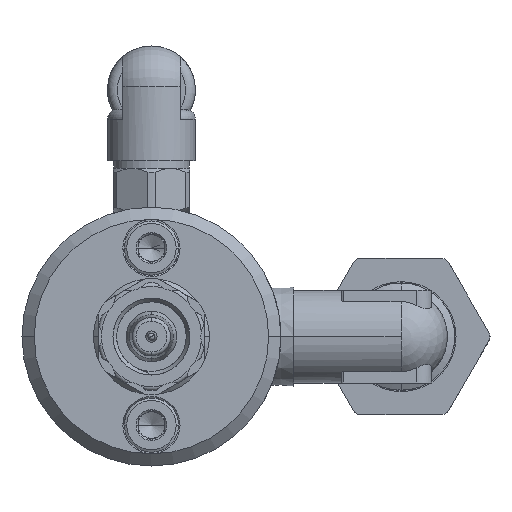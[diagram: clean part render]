
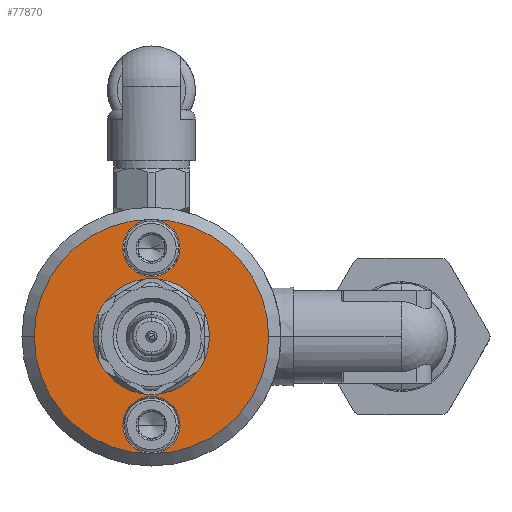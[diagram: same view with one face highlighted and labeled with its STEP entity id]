
A CAD part, front view. The second image highlights one B-rep face of the part: STEP entity #77870.
In plain terms, the highlighted planar face has unit normal (0, -1, 0).
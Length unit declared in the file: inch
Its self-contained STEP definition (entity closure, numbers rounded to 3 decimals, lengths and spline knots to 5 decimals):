
#302 = AXIS2_PLACEMENT_3D ( 'NONE', #28994, #22713, #35038 ) ;
#2168 = DIRECTION ( 'NONE',  ( 1., 0., 0. ) ) ;
#4501 = CARTESIAN_POINT ( 'NONE',  ( 0., -0.875, 0.2375 ) ) ;
#7671 = VERTEX_POINT ( 'NONE', #52688 ) ;
#9835 = DIRECTION ( 'NONE',  ( 1., 0., 0. ) ) ;
#10021 = VERTEX_POINT ( 'NONE', #30435 ) ;
#12459 = EDGE_LOOP ( 'NONE', ( #58090, #65483 ) ) ;
#13237 = ORIENTED_EDGE ( 'NONE', *, *, #17180, .F. ) ;
#14025 = CIRCLE ( 'NONE', #25470, 0.2375 ) ;
#14329 = CARTESIAN_POINT ( 'NONE',  ( 0., -0.875, 0. ) ) ;
#14725 = ORIENTED_EDGE ( 'NONE', *, *, #23376, .T. ) ;
#14953 = FACE_OUTER_BOUND ( 'NONE', #28342, .T. ) ;
#15014 = VERTEX_POINT ( 'NONE', #32642 ) ;
#15921 = AXIS2_PLACEMENT_3D ( 'NONE', #27787, #34319, #22266 ) ;
#17180 = EDGE_CURVE ( 'NONE', #51227, #54666, #14025, .T. ) ;
#18436 = DIRECTION ( 'NONE',  ( 0., -1., 0. ) ) ;
#18821 = AXIS2_PLACEMENT_3D ( 'NONE', #47123, #53442, #47637 ) ;
#21975 = CIRCLE ( 'NONE', #15921, 0.117 ) ;
#22266 = DIRECTION ( 'NONE',  ( -1., 0., 0. ) ) ;
#22450 = DIRECTION ( 'NONE',  ( 0., -1., 0. ) ) ;
#22620 = EDGE_CURVE ( 'NONE', #77284, #49402, #27090, .T. ) ;
#22713 = DIRECTION ( 'NONE',  ( 0., -1., 0. ) ) ;
#22873 = AXIS2_PLACEMENT_3D ( 'NONE', #4501, #76156, #52423 ) ;
#23376 = EDGE_CURVE ( 'NONE', #49402, #77284, #27924, .T. ) ;
#25470 = AXIS2_PLACEMENT_3D ( 'NONE', #14329, #38784, #32190 ) ;
#27090 = CIRCLE ( 'NONE', #66678, 0.48 ) ;
#27515 = ORIENTED_EDGE ( 'NONE', *, *, #34084, .F. ) ;
#27787 = CARTESIAN_POINT ( 'NONE',  ( 0., -0.875, -0.3625 ) ) ;
#27924 = CIRCLE ( 'NONE', #62149, 0.48 ) ;
#28342 = EDGE_LOOP ( 'NONE', ( #44213, #14725 ) ) ;
#28994 = CARTESIAN_POINT ( 'NONE',  ( 0., -0.875, 0. ) ) ;
#30117 = CARTESIAN_POINT ( 'NONE',  ( 0.117, -0.875, 0.3625 ) ) ;
#30435 = CARTESIAN_POINT ( 'NONE',  ( 0.117, -0.875, -0.3625 ) ) ;
#30934 = FACE_BOUND ( 'NONE', #12459, .T. ) ;
#31027 = CARTESIAN_POINT ( 'NONE',  ( 0.48, -0.875, 0. ) ) ;
#32190 = DIRECTION ( 'NONE',  ( 1., 0., 0. ) ) ;
#32642 = CARTESIAN_POINT ( 'NONE',  ( -0.117, -0.875, -0.3625 ) ) ;
#34084 = EDGE_CURVE ( 'NONE', #7671, #67563, #78101, .T. ) ;
#34319 = DIRECTION ( 'NONE',  ( 0., -1., 0. ) ) ;
#35038 = DIRECTION ( 'NONE',  ( 1., 0., 0. ) ) ;
#38685 = EDGE_CURVE ( 'NONE', #54666, #51227, #74833, .T. ) ;
#38784 = DIRECTION ( 'NONE',  ( 0., -1., 0. ) ) ;
#39472 = CIRCLE ( 'NONE', #49613, 0.117 ) ;
#44012 = CARTESIAN_POINT ( 'NONE',  ( 0., -0.875, 0. ) ) ;
#44153 = CIRCLE ( 'NONE', #18821, 0.117 ) ;
#44213 = ORIENTED_EDGE ( 'NONE', *, *, #22620, .T. ) ;
#45893 = CARTESIAN_POINT ( 'NONE',  ( -0.2375, -0.875, 0. ) ) ;
#46991 = CARTESIAN_POINT ( 'NONE',  ( 0.2375, -0.875, 0. ) ) ;
#47123 = CARTESIAN_POINT ( 'NONE',  ( 0., -0.875, -0.3625 ) ) ;
#47637 = DIRECTION ( 'NONE',  ( -1., 0., 0. ) ) ;
#49166 = ORIENTED_EDGE ( 'NONE', *, *, #38685, .F. ) ;
#49402 = VERTEX_POINT ( 'NONE', #31027 ) ;
#49613 = AXIS2_PLACEMENT_3D ( 'NONE', #53281, #65716, #59364 ) ;
#49832 = FACE_BOUND ( 'NONE', #60414, .T. ) ;
#50664 = CARTESIAN_POINT ( 'NONE',  ( -0.48, -0.875, 0. ) ) ;
#51227 = VERTEX_POINT ( 'NONE', #45893 ) ;
#52423 = DIRECTION ( 'NONE',  ( 1., 0., 0. ) ) ;
#52688 = CARTESIAN_POINT ( 'NONE',  ( -0.117, -0.875, 0.3625 ) ) ;
#53281 = CARTESIAN_POINT ( 'NONE',  ( 0., -0.875, 0.3625 ) ) ;
#53442 = DIRECTION ( 'NONE',  ( 0., -1., 0. ) ) ;
#54666 = VERTEX_POINT ( 'NONE', #46991 ) ;
#58090 = ORIENTED_EDGE ( 'NONE', *, *, #69353, .F. ) ;
#59364 = DIRECTION ( 'NONE',  ( 1., 0., 0. ) ) ;
#59631 = AXIS2_PLACEMENT_3D ( 'NONE', #72472, #18436, #66416 ) ;
#60414 = EDGE_LOOP ( 'NONE', ( #66417, #27515 ) ) ;
#62149 = AXIS2_PLACEMENT_3D ( 'NONE', #75916, #22450, #9835 ) ;
#62498 = EDGE_LOOP ( 'NONE', ( #49166, #13237 ) ) ;
#64836 = PLANE ( 'NONE',  #22873 ) ;
#65483 = ORIENTED_EDGE ( 'NONE', *, *, #77901, .F. ) ;
#65716 = DIRECTION ( 'NONE',  ( 0., -1., 0. ) ) ;
#66416 = DIRECTION ( 'NONE',  ( 1., 0., 0. ) ) ;
#66417 = ORIENTED_EDGE ( 'NONE', *, *, #77403, .F. ) ;
#66678 = AXIS2_PLACEMENT_3D ( 'NONE', #44012, #74115, #2168 ) ;
#67563 = VERTEX_POINT ( 'NONE', #30117 ) ;
#69353 = EDGE_CURVE ( 'NONE', #10021, #15014, #21975, .T. ) ;
#70604 = FACE_BOUND ( 'NONE', #62498, .T. ) ;
#72472 = CARTESIAN_POINT ( 'NONE',  ( 0., -0.875, 0.3625 ) ) ;
#74115 = DIRECTION ( 'NONE',  ( 0., -1., 0. ) ) ;
#74833 = CIRCLE ( 'NONE', #302, 0.2375 ) ;
#75916 = CARTESIAN_POINT ( 'NONE',  ( 0., -0.875, 0. ) ) ;
#76156 = DIRECTION ( 'NONE',  ( 0., -1., 0. ) ) ;
#77284 = VERTEX_POINT ( 'NONE', #50664 ) ;
#77403 = EDGE_CURVE ( 'NONE', #67563, #7671, #39472, .T. ) ;
#77870 = ADVANCED_FACE ( 'NONE', ( #30934, #49832, #14953, #70604 ), #64836, .T. ) ;
#77901 = EDGE_CURVE ( 'NONE', #15014, #10021, #44153, .T. ) ;
#78101 = CIRCLE ( 'NONE', #59631, 0.117 ) ;
